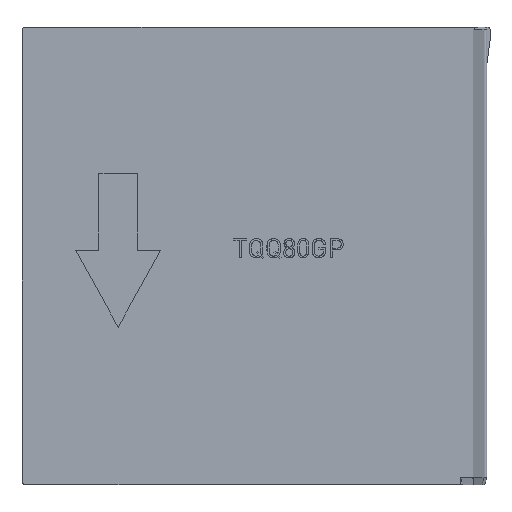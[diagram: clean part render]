
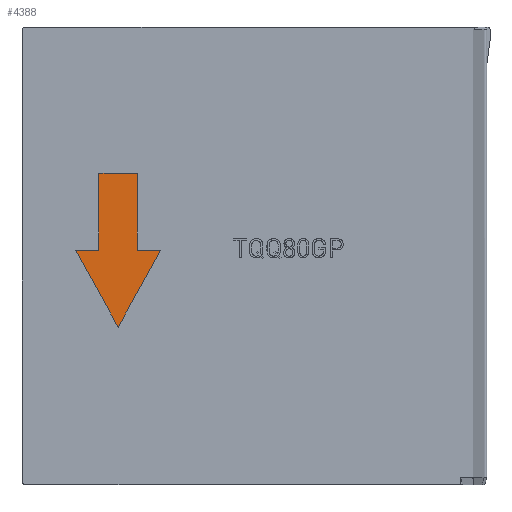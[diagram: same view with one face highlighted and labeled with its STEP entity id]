
A CAD part, top view. The second image highlights one B-rep face of the part: STEP entity #4388.
In plain terms, the highlighted planar face has unit normal (0, 0, 1).
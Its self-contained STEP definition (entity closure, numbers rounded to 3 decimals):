
#1405=DIRECTION('',(0.,-1.,0.));
#1406=VECTOR('',#1405,20.);
#1407=CARTESIAN_POINT('',(-95.,0.,1.3));
#1408=LINE('',#1407,#1406);
#1409=DIRECTION('',(-1.,0.,0.));
#1410=VECTOR('',#1409,10.);
#1411=CARTESIAN_POINT('',(-85.,0.,1.3));
#1412=LINE('',#1411,#1410);
#1413=DIRECTION('',(0.,1.,0.));
#1414=VECTOR('',#1413,20.);
#1415=CARTESIAN_POINT('',(-85.,-20.,1.3));
#1416=LINE('',#1415,#1414);
#1417=DIRECTION('',(-1.,0.,0.));
#1418=VECTOR('',#1417,6.);
#1419=CARTESIAN_POINT('',(-79.,-20.,1.3));
#1420=LINE('',#1419,#1418);
#1421=DIRECTION('',(0.482,0.876,0.));
#1422=VECTOR('',#1421,22.826);
#1423=CARTESIAN_POINT('',(-90.,-40.,1.3));
#1424=LINE('',#1423,#1422);
#1425=DIRECTION('',(0.482,-0.876,0.));
#1426=VECTOR('',#1425,22.826);
#1427=CARTESIAN_POINT('',(-101.,-20.,1.3));
#1428=LINE('',#1427,#1426);
#1429=DIRECTION('',(-1.,0.,0.));
#1430=VECTOR('',#1429,6.);
#1431=CARTESIAN_POINT('',(-95.,-20.,1.3));
#1432=LINE('',#1431,#1430);
#3038=CARTESIAN_POINT('',(-95.,0.,1.3));
#3039=CARTESIAN_POINT('',(-95.,-20.,1.3));
#3040=VERTEX_POINT('',#3038);
#3041=VERTEX_POINT('',#3039);
#3042=CARTESIAN_POINT('',(-101.,-20.,1.3));
#3043=VERTEX_POINT('',#3042);
#3044=CARTESIAN_POINT('',(-90.,-40.,1.3));
#3045=VERTEX_POINT('',#3044);
#3046=CARTESIAN_POINT('',(-79.,-20.,1.3));
#3047=VERTEX_POINT('',#3046);
#3048=CARTESIAN_POINT('',(-85.,-20.,1.3));
#3049=VERTEX_POINT('',#3048);
#3050=CARTESIAN_POINT('',(-85.,0.,1.3));
#3051=VERTEX_POINT('',#3050);
#4367=CARTESIAN_POINT('',(0.,0.,1.3));
#4368=DIRECTION('',(0.,0.,1.));
#4369=DIRECTION('',(1.,0.,0.));
#4370=AXIS2_PLACEMENT_3D('',#4367,#4368,#4369);
#4371=PLANE('',#4370);
#4373=ORIENTED_EDGE('',*,*,#4372,.F.);
#4375=ORIENTED_EDGE('',*,*,#4374,.F.);
#4377=ORIENTED_EDGE('',*,*,#4376,.F.);
#4379=ORIENTED_EDGE('',*,*,#4378,.F.);
#4381=ORIENTED_EDGE('',*,*,#4380,.F.);
#4383=ORIENTED_EDGE('',*,*,#4382,.F.);
#4385=ORIENTED_EDGE('',*,*,#4384,.F.);
#4386=EDGE_LOOP('',(#4373,#4375,#4377,#4379,#4381,#4383,#4385));
#4387=FACE_OUTER_BOUND('',#4386,.F.);
#4388=ADVANCED_FACE('',(#4387),#4371,.T.);
#4372=EDGE_CURVE('',#3040,#3041,#1408,.T.);
#4374=EDGE_CURVE('',#3051,#3040,#1412,.T.);
#4376=EDGE_CURVE('',#3049,#3051,#1416,.T.);
#4378=EDGE_CURVE('',#3047,#3049,#1420,.T.);
#4380=EDGE_CURVE('',#3045,#3047,#1424,.T.);
#4382=EDGE_CURVE('',#3043,#3045,#1428,.T.);
#4384=EDGE_CURVE('',#3041,#3043,#1432,.T.);
